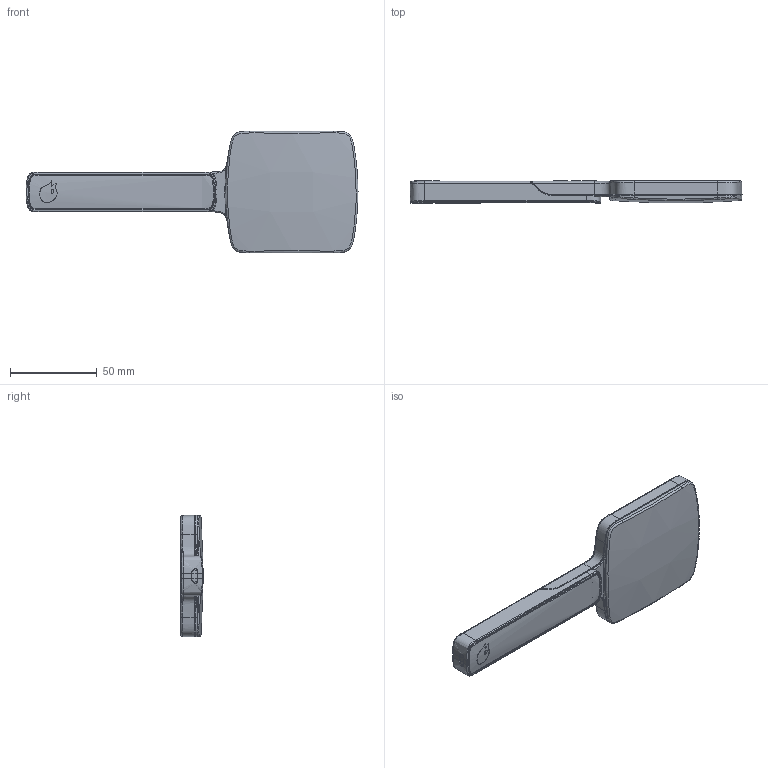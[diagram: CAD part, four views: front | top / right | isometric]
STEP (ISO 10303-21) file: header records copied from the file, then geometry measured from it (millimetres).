
FILE_DESCRIPTION (( 'STEP AP203' ), '1' );
FILE_NAME ('8252060-DSM - X2 Survey Sensor - external geometry.STEP', '2025-08-27T14:25:23', ( '' ), ( '' ), 'SwSTEP 2.0', 'SolidWorks 2024', '' );
FILE_SCHEMA (( 'CONFIG_CONTROL_DESIGN' ));
Length unit declared in the file: millimetre
Products named in the file (1): 8252060-DSM - X2 Survey Sensor - external geometry
Bounding box: 191.35 x 13.01 x 69.99 mm (x, y, z)
Volume: 102630.3 mm3; surface area: 56759.8 mm2
Topology: 9 solids, 9 shells, 448 faces, 1098 edges, 688 vertices
Faces by surface type: plane 144, bspline 139, cylinder 132, cone 20, torus 11, sphere 2
Full cylindrical faces by diameter (mm): 2.05 x4, 2.2 x8, 2.4 x4, 2.6 x4, 3.5 x2, 4.4 x4, 4.5 x4, 4.7 x4
Entity records: 26534 total; most frequent: CARTESIAN_POINT 17096, ORIENTED_EDGE 2052, DIRECTION 1630, EDGE_CURVE 1026, VERTEX_POINT 668, AXIS2_PLACEMENT_3D 600, EDGE_LOOP 546, FACE_OUTER_BOUND 482
